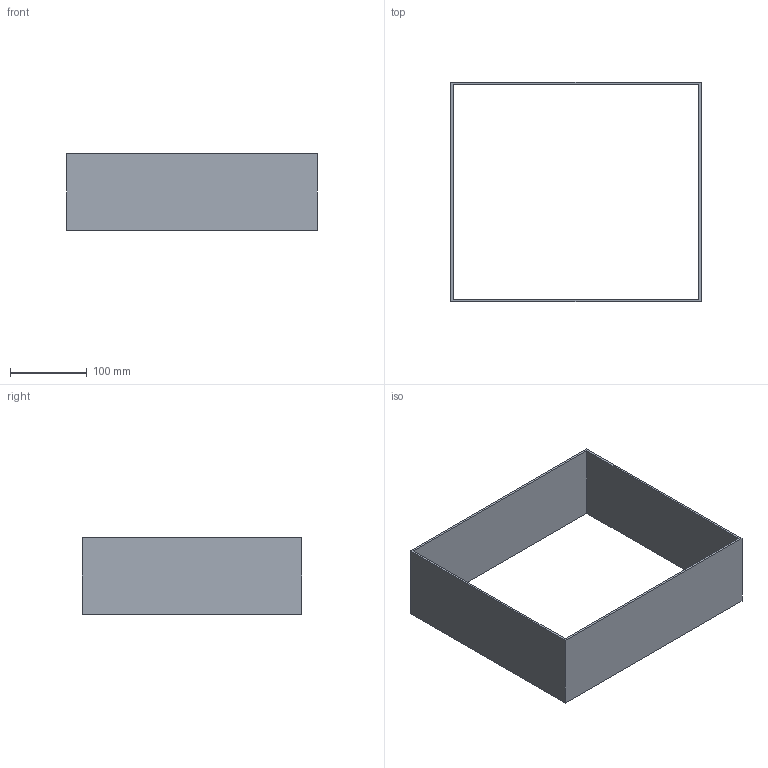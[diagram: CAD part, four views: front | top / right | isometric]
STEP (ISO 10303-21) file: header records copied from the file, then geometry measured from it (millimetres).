
FILE_DESCRIPTION(('Open CASCADE Model'),'2;1');
FILE_NAME('Open CASCADE Shape Model','2026-10-16T18:52:00',('Author'),( 'Open CASCADE'),'Open CASCADE STEP processor 7.8','Open CASCADE 7.8' ,'Unknown');
FILE_SCHEMA(('AUTOMOTIVE_DESIGN { 1 0 10303 214 1 1 1 1 }'));
Length unit declared in the file: millimetre
Products named in the file (1): Open CASCADE STEP translator 7.8 10
Bounding box: 326 x 286 x 100 mm (x, y, z)
Volume: 363600 mm3; surface area: 249672 mm2
Topology: 1 solids, 1 shells, 10 faces, 24 edges, 16 vertices
Faces by surface type: plane 10
Entity records: 598 total; most frequent: CARTESIAN_POINT 115, DIRECTION 78, LINE 56, VECTOR 56, ORIENTED_EDGE 48, PCURVE 48, DEFINITIONAL_REPRESENTATION 48, EDGE_CURVE 24
